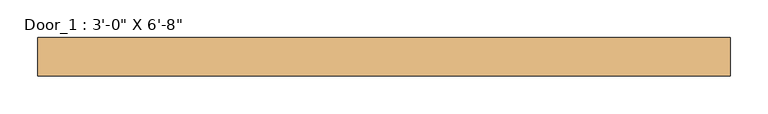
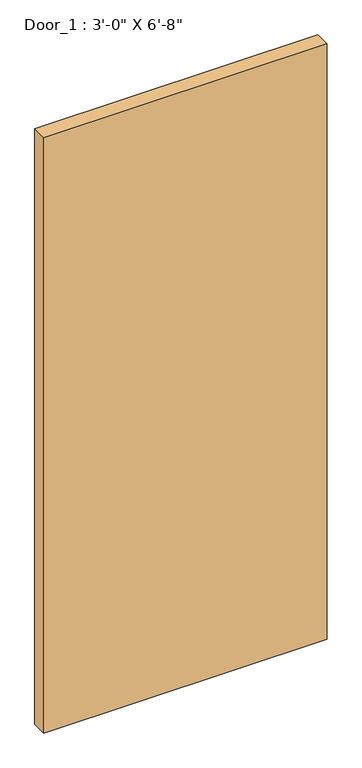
"""IFC4 building model written with IfcOpenShell, lengths in millimetres: door geometry."""

from ifc_helpers import new_model, si_unit, origin, origin_with_axes, place, context, project, spatial, polyline, outline, extrude, source, transform, mapped, element, save


def door_0635474c(model_context):
    return source(origin(), model_context, "Body", "SweptSolid", [
        extrude(outline(polyline([(457.2, -31.75), (457.2, -82.55), (-457.2, -82.55), (-457.2, -31.75), (457.2, -31.75)])), origin_with_axes(), (0.0, 0.0, 1.0), 2032.0),
    ])


if __name__ == "__main__":
    model = new_model("IFC4")
    model_context = context("Model", 3, world=origin())
    ifc_project = project(units=[si_unit("LENGTHUNIT", "METRE", prefix="MILLI")], contexts=[model_context])
    site = spatial("IfcSite", under=ifc_project)
    building = spatial("IfcBuilding", under=site)
    placement = place(None, origin())
    door_shape = door_0635474c(model_context)
    element("IfcDoor", 1, ObjectType="Door_1 : 3'-0\" X 6'-8\"", at=placement, inside=building, context=model_context, shape_type="MappedRepresentation", body=[
        mapped(door_shape, transform((0.0, 0.0, 0.0), x_axis=(1.0, 0.0, 0.0), y_axis=(0.0, 1.0, 0.0), z_axis=(0.0, 0.0, 1.0))),
    ])
    save(model, "model.ifc")
